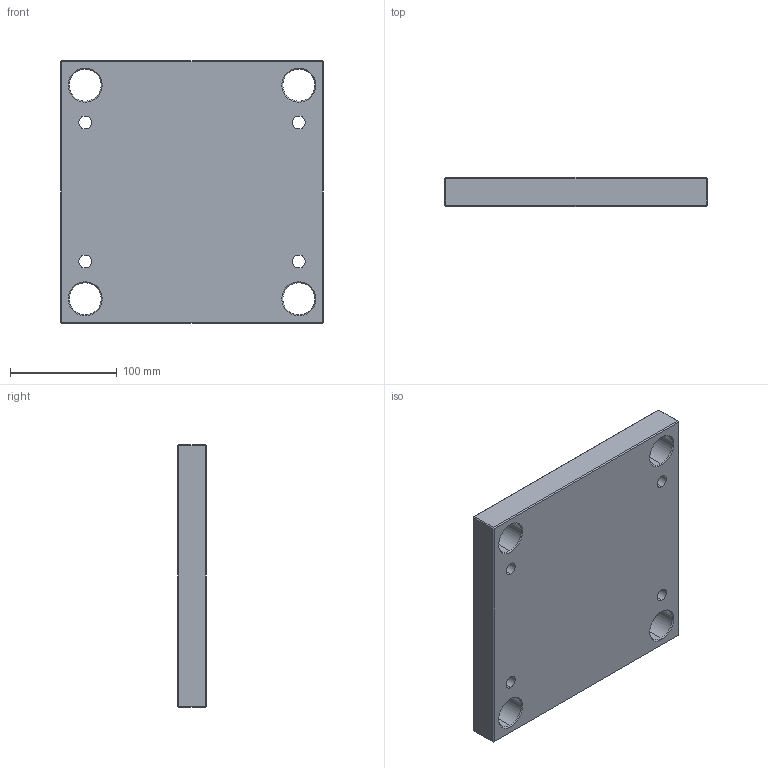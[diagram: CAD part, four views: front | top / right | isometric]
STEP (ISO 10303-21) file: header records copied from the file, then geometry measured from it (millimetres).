
FILE_DESCRIPTION (( 'STEP AP214' ), '1' );
FILE_NAME ('PS-EU-246x246x27.STEP', '2021-02-17T16:11:31', ( '' ), ( '' ), 'SwSTEP 2.0', 'SolidWorks 2018', '' );
FILE_SCHEMA (( 'AUTOMOTIVE_DESIGN' ));
Length unit declared in the file: millimetre
Products named in the file (1): PS-EU-246x246x27
Bounding box: 246 x 27 x 246 mm (x, y, z)
Volume: 1532699.3 mm3; surface area: 155047.7 mm2
Topology: 1 solids, 1 shells, 70 faces, 152 edges, 88 vertices
Faces by surface type: plane 30, cylinder 24, cone 16
Entity records: 1946 total; most frequent: DIRECTION 358, CARTESIAN_POINT 311, ORIENTED_EDGE 304, EDGE_CURVE 152, AXIS2_PLACEMENT_3D 135, EDGE_LOOP 90, LINE 88, VERTEX_POINT 88
